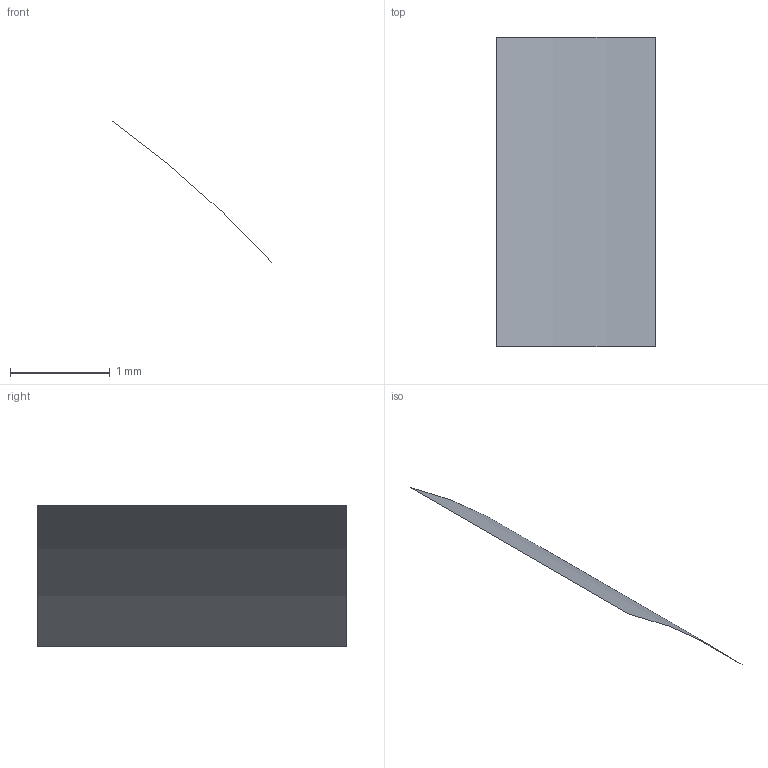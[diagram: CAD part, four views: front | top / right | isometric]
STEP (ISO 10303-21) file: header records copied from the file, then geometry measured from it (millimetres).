
FILE_DESCRIPTION(('Open CASCADE Model'),'2;1');
FILE_NAME('Open CASCADE Shape Model','2026-09-15T14:42:53',('Author'),( 'Open CASCADE'),'Open CASCADE STEP processor 7.7','Open CASCADE 7.7' ,'Unknown');
FILE_SCHEMA(('AUTOMOTIVE_DESIGN { 1 0 10303 214 1 1 1 1 }'));
Length unit declared in the file: millimetre
Products named in the file (1): Open CASCADE STEP translator 7.7 1
Bounding box: 1.6 x 3.1 x 1.42 mm (x, y, z)
Surface area: 6.6 mm2 (no closed solid volume)
Topology: 0 solids, 1 shells, 1 faces, 4 edges, 4 vertices
Faces by surface type: cylinder 1
Entity records: 86 total; most frequent: CARTESIAN_POINT 16, DIRECTION 12, AXIS2_PLACEMENT_3D 4, ORIENTED_EDGE 4, EDGE_CURVE 4, VERTEX_POINT 4, SURFACE_CURVE 4, LINE 4
